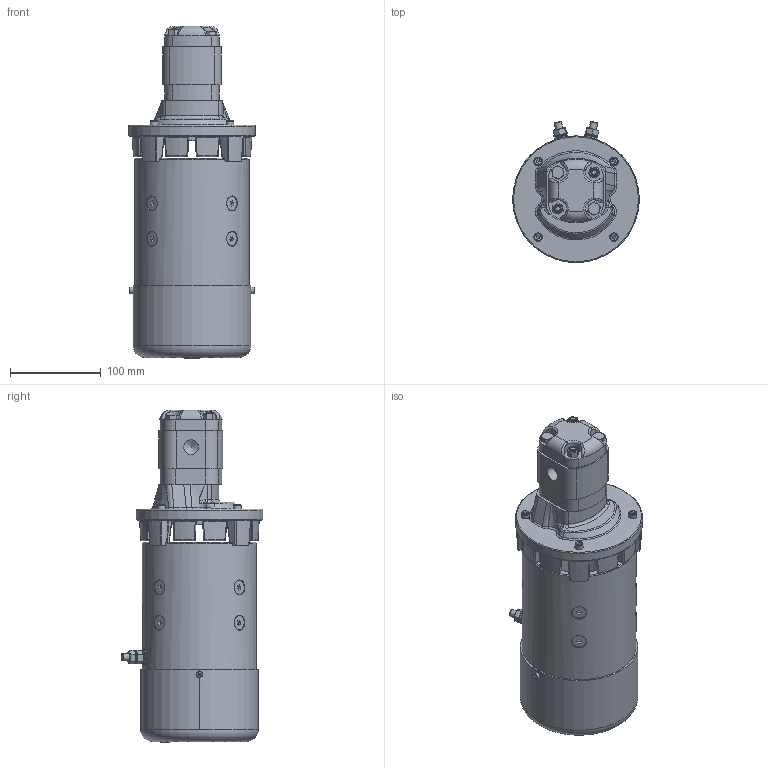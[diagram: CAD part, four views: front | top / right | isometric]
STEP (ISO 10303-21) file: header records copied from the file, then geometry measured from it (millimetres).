
FILE_DESCRIPTION(/* description */ (''),/* implementation_level */ '2;1');
FILE_NAME(/* name */ 'Z:\SITO WEB 2023\Elettropompe\Elettropompe DC\D.125 mm\MP125.GR1.VE1.stp',/* time_stamp */ '2023-09-19T08:30:29+02:00',/* author */ ('cad3'),/* organization */ (''),/* preprocessor_version */ 'ST-DEVELOPER v18.1',/* originating_system */ 'Autodesk Inventor 2022',/* authorisation */ '');
FILE_SCHEMA (('AUTOMOTIVE_DESIGN { 1 0 10303 214 3 1 1 }'));
Length unit declared in the file: millimetre
Products named in the file (1): MP125.GR1.VE1
Bounding box: 140 x 156.32 x 366.7 mm (x, y, z)
Volume: 1225799.6 mm3; surface area: 356105.8 mm2
Topology: 13 solids, 25 shells, 2659 faces, 7373 edges, 4623 vertices
Faces by surface type: plane 1743, cylinder 380, cone 197, bspline 163, torus 142, sphere 34
Full cylindrical faces by diameter (mm): 4 x4, 4.134 x8, 4.2 x2, 4.48 x4, 5 x4, 5.3 x4, 5.5 x4, 6 x4, 6.5 x7, 6.647 x2, 7 x2, 8 x16, 8.2 x2, 8.4 x4, 8.5 x20, 9.4 x1, 9.5 x4, 9.9 x2, 10.5 x4, 11.5 x2, 11.6 x2, 12.376 x1, 13 x2, 15.5 x3, 15.57 x8, 16.376 x1, 16.4 x1, 16.5 x8, 17 x2, 20 x2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
Entity records: 95375 total; most frequent: CARTESIAN_POINT 24643, ORIENTED_EDGE 14650, DIRECTION 14015, EDGE_CURVE 7325, AXIS2_PLACEMENT_3D 5034, VERTEX_POINT 4631, LINE 3947, VECTOR 3947
